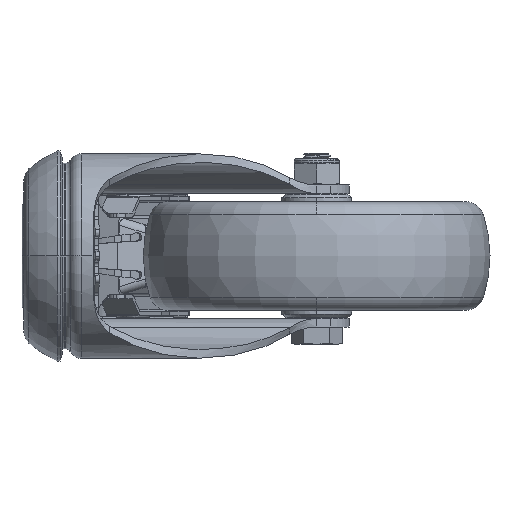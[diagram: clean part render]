
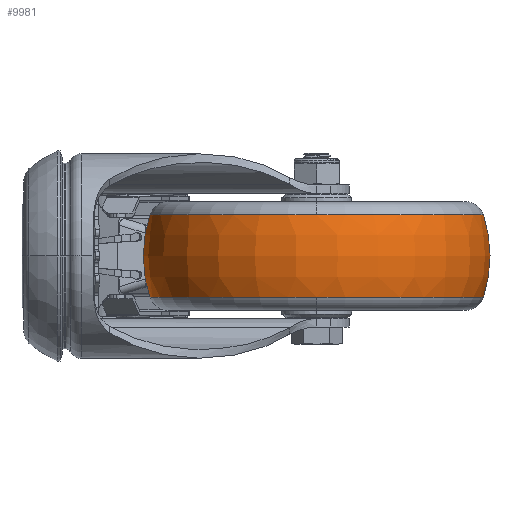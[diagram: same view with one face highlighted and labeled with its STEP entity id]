
A CAD part, left-side view. The second image highlights one B-rep face of the part: STEP entity #9981.
In plain terms, the highlighted toroidal (fillet/blend) face has major radius 12.577 mm and minor radius 37.423 mm.
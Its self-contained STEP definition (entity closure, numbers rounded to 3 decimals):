
#1735 = AXIS2_PLACEMENT_3D ( 'NONE', #46615, #50984, #25818 ) ;
#4071 = EDGE_CURVE ( 'NONE', #9910, #12720, #36223, .T. ) ;
#4113 = EDGE_CURVE ( 'NONE', #61064, #30798, #42658, .T. ) ;
#5646 = DIRECTION ( 'NONE',  ( 0., 0., 1. ) ) ;
#6968 = DIRECTION ( 'NONE',  ( -1., 0., 0. ) ) ;
#7062 = AXIS2_PLACEMENT_3D ( 'NONE', #23592, #52239, #22003 ) ;
#8754 = VERTEX_POINT ( 'NONE', #47830 ) ;
#9427 = ORIENTED_EDGE ( 'NONE', *, *, #51529, .F. ) ;
#9910 = VERTEX_POINT ( 'NONE', #45566 ) ;
#9933 = CARTESIAN_POINT ( 'NONE',  ( -42.068, -10.734, 62.368 ) ) ;
#9981 = ADVANCED_FACE ( 'NONE', ( #30792 ), #13578, .T. ) ;
#11489 = ORIENTED_EDGE ( 'NONE', *, *, #27006, .F. ) ;
#12011 = DIRECTION ( 'NONE',  ( -1., 0., 0. ) ) ;
#12720 = VERTEX_POINT ( 'NONE', #50128 ) ;
#13578 = TOROIDAL_SURFACE ( 'NONE', #7062, 12.577, 37.423 ) ;
#14834 = ORIENTED_EDGE ( 'NONE', *, *, #38446, .F. ) ;
#17280 = CIRCLE ( 'NONE', #54862, 48.058 ) ;
#17445 = ORIENTED_EDGE ( 'NONE', *, *, #4113, .F. ) ;
#22003 = DIRECTION ( 'NONE',  ( 0., 1., 0. ) ) ;
#23592 = CARTESIAN_POINT ( 'NONE',  ( -42.068, -10.734, 74.267 ) ) ;
#25818 = DIRECTION ( 'NONE',  ( 0., 0., -1. ) ) ;
#26568 = AXIS2_PLACEMENT_3D ( 'NONE', #37845, #37537, #64021 ) ;
#27006 = EDGE_CURVE ( 'NONE', #58724, #8754, #55740, .T. ) ;
#27661 = DIRECTION ( 'NONE',  ( -1., 0., 0. ) ) ;
#29504 = ORIENTED_EDGE ( 'NONE', *, *, #39909, .T. ) ;
#30476 = CARTESIAN_POINT ( 'NONE',  ( -42.068, -58.792, 86.166 ) ) ;
#30495 = DIRECTION ( 'NONE',  ( 0., 0., -1. ) ) ;
#30792 = FACE_OUTER_BOUND ( 'NONE', #56070, .T. ) ;
#30798 = VERTEX_POINT ( 'NONE', #30476 ) ;
#33007 = AXIS2_PLACEMENT_3D ( 'NONE', #37272, #12011, #63765 ) ;
#33034 = ORIENTED_EDGE ( 'NONE', *, *, #4071, .F. ) ;
#35036 = AXIS2_PLACEMENT_3D ( 'NONE', #9933, #30495, #27661 ) ;
#36223 = CIRCLE ( 'NONE', #1735, 37.423 ) ;
#37272 = CARTESIAN_POINT ( 'NONE',  ( -42.068, -23.311, 74.267 ) ) ;
#37537 = DIRECTION ( 'NONE',  ( 0., 0., 1. ) ) ;
#37845 = CARTESIAN_POINT ( 'NONE',  ( -42.068, -10.734, 86.166 ) ) ;
#38446 = EDGE_CURVE ( 'NONE', #8754, #9910, #60767, .T. ) ;
#39909 = EDGE_CURVE ( 'NONE', #58724, #30798, #42615, .T. ) ;
#42615 = CIRCLE ( 'NONE', #33007, 37.423 ) ;
#42658 = CIRCLE ( 'NONE', #26568, 48.058 ) ;
#43001 = DIRECTION ( 'NONE',  ( 0., 0., -1. ) ) ;
#45566 = CARTESIAN_POINT ( 'NONE',  ( -42.068, 37.324, 62.368 ) ) ;
#46615 = CARTESIAN_POINT ( 'NONE',  ( -42.068, 1.843, 74.267 ) ) ;
#47830 = CARTESIAN_POINT ( 'NONE',  ( -90.126, -10.734, 62.368 ) ) ;
#50128 = CARTESIAN_POINT ( 'NONE',  ( -42.068, 37.324, 86.166 ) ) ;
#50984 = DIRECTION ( 'NONE',  ( 1., 0., 0. ) ) ;
#51399 = AXIS2_PLACEMENT_3D ( 'NONE', #63162, #43001, #6968 ) ;
#51529 = EDGE_CURVE ( 'NONE', #12720, #61064, #17280, .T. ) ;
#52152 = CARTESIAN_POINT ( 'NONE',  ( -42.068, -58.792, 62.368 ) ) ;
#52239 = DIRECTION ( 'NONE',  ( 0., 0., 1. ) ) ;
#54862 = AXIS2_PLACEMENT_3D ( 'NONE', #60517, #5646, #57147 ) ;
#55740 = CIRCLE ( 'NONE', #51399, 48.058 ) ;
#56070 = EDGE_LOOP ( 'NONE', ( #11489, #29504, #17445, #9427, #33034, #14834 ) ) ;
#56380 = CARTESIAN_POINT ( 'NONE',  ( -90.126, -10.734, 86.166 ) ) ;
#57147 = DIRECTION ( 'NONE',  ( -1., 0., 0. ) ) ;
#58724 = VERTEX_POINT ( 'NONE', #52152 ) ;
#60517 = CARTESIAN_POINT ( 'NONE',  ( -42.068, -10.734, 86.166 ) ) ;
#60767 = CIRCLE ( 'NONE', #35036, 48.058 ) ;
#61064 = VERTEX_POINT ( 'NONE', #56380 ) ;
#63162 = CARTESIAN_POINT ( 'NONE',  ( -42.068, -10.734, 62.368 ) ) ;
#63765 = DIRECTION ( 'NONE',  ( 0., 0., 1. ) ) ;
#64021 = DIRECTION ( 'NONE',  ( -1., 0., 0. ) ) ;
